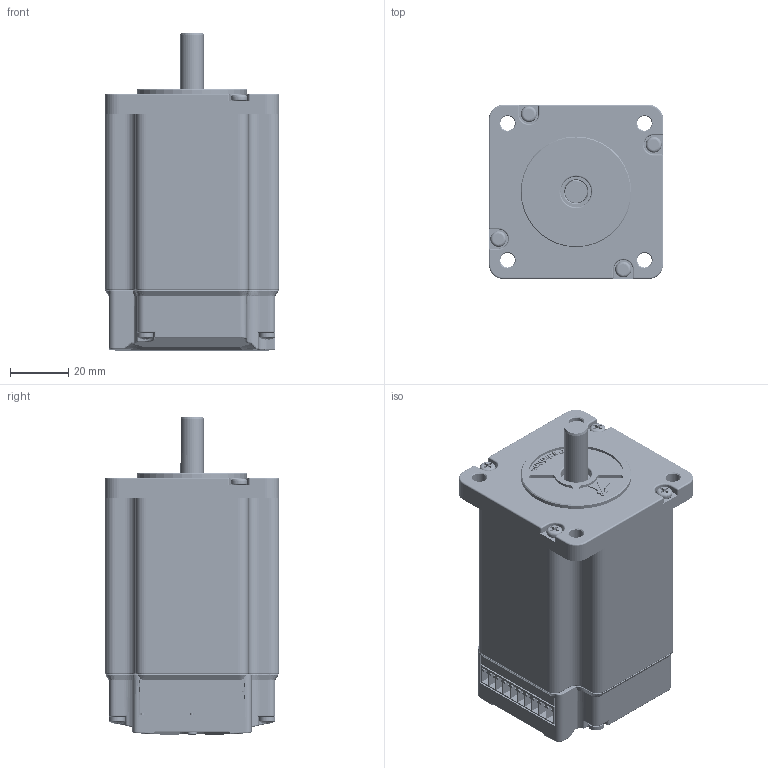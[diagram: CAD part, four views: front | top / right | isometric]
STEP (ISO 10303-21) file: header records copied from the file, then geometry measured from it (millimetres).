
FILE_DESCRIPTION((''),'2;1');
FILE_NAME('ICL57-13_ASM','2022-03-14T15:38:51',('Administrator'),(''),'CREO PARAMETRIC BY PTC INC, 2019224','CREO PARAMETRIC BY PTC INC, 2019224','');
FILE_SCHEMA(('CONFIG_CONTROL_DESIGN','GEOMETRIC_VALIDATION_PROPERTIES_MIM'));
Products named in the file (29): _57HS056SF055M-01; ZJ_ICL57_4; PCB_ICL57_4; HEADER_2_0_4X_1; 1_27CB_1; PCB_ICL57_ASM_2_ASM_ASM_ASM; ____-3-6_1; BREP_2_1; PRT0003_5; ASM_ICL57_ASM_19_ASM_ASM_ASM; ICL57_2_ASM_ASM; AL_ICL57_22_14; 57HS056SF055M-01_ASM_ASM; DZTX60HSDJ45_5_1; M3-62_1; DG60HSD-005-S01DY_1_2_3; ZZTX60HSDJ8_5_1; ZT12-8-3_2_1; ZHS66MD_1; CG37-11_5-1_5_1_2; 608ZZ_1_2_3_4; GCP32_5-12_5-1_8_1_2_3; ZT12-8-3_1; ZZ60HS066_1_ASM; DG60HSD-004-S01DY; CGCGT_1_2_3_4; 60HS066DF032M-01_ASM; ICLD57CM21-B15_ASM; ICL57-13_ASM
Assembly tree (39 placements, depth 6):
  ICL57-13_ASM
    57HS056SF055M-01_ASM_ASM
      _57HS056SF055M-01
      ICL57_2_ASM_ASM
        ASM_ICL57_ASM_19_ASM_ASM_ASM
          ZJ_ICL57_4
          PCB_ICL57_ASM_2_ASM_ASM_ASM
            PCB_ICL57_4
            HEADER_2_0_4X_1
            1_27CB_1
          ____-3-6_1  x4
          BREP_2_1
          PRT0003_5
      AL_ICL57_22_14
    ICLD57CM21-B15_ASM
      60HS066DF032M-01_ASM
        DZTX60HSDJ45_5_1
        M3-62_1  x4
        DG60HSD-005-S01DY_1_2_3
        ZZ60HS066_1_ASM
          ZZTX60HSDJ8_5_1  x4
          ZT12-8-3_2_1
          ZHS66MD_1
          CG37-11_5-1_5_1_2  x2
          608ZZ_1_2_3_4  x2
          GCP32_5-12_5-1_8_1_2_3
          ZT12-8-3_1
        DG60HSD-004-S01DY
        CGCGT_1_2_3_4
Bounding box: 60 x 60 x 109.84 mm (x, y, z)
Volume: 174385.8 mm3; surface area: 128083.2 mm2
Topology: 31 solids, 31 shells, 5142 faces, 13545 edges, 8516 vertices
Faces by surface type: plane 1740, cylinder 1640, cone 1444, torus 129, bspline 90, extrusion 74, sphere 25
Entity records: 119478 total; most frequent: CARTESIAN_POINT 23441, DIRECTION 15829, ORIENTED_EDGE 15782, EDGE_CURVE 7891, PRESENTATION_STYLE_ASSIGNMENT 6448, STYLED_ITEM 6420, CURVE_STYLE 6405, AXIS2_PLACEMENT_3D 5415
